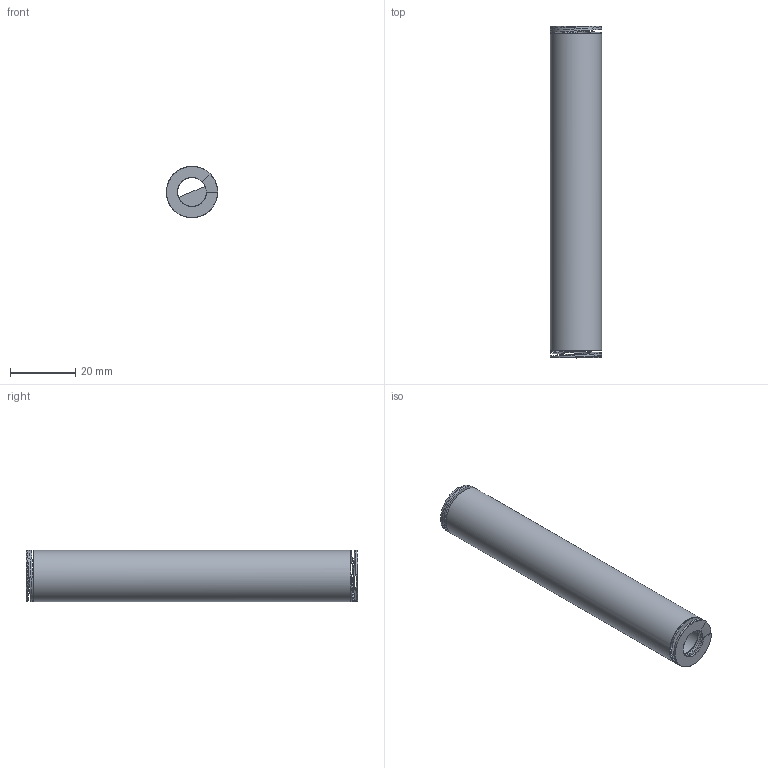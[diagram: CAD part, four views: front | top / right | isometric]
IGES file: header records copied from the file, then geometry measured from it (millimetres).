
Global section: file name: 1L16101; native system: Autodesk Inventor 2026; preprocessor: unknown; author: J. Iwanek; date: 20261007.110159; units: millimetre
Bounding box: 15.72 x 102 x 15.72 mm (x, y, z)
Volume: 6568.2 mm3; surface area: 8288.7 mm2
Topology: 1 solids, 1 shells, 22 faces, 80 edges, 49 vertices
Faces by surface type: bspline 22
